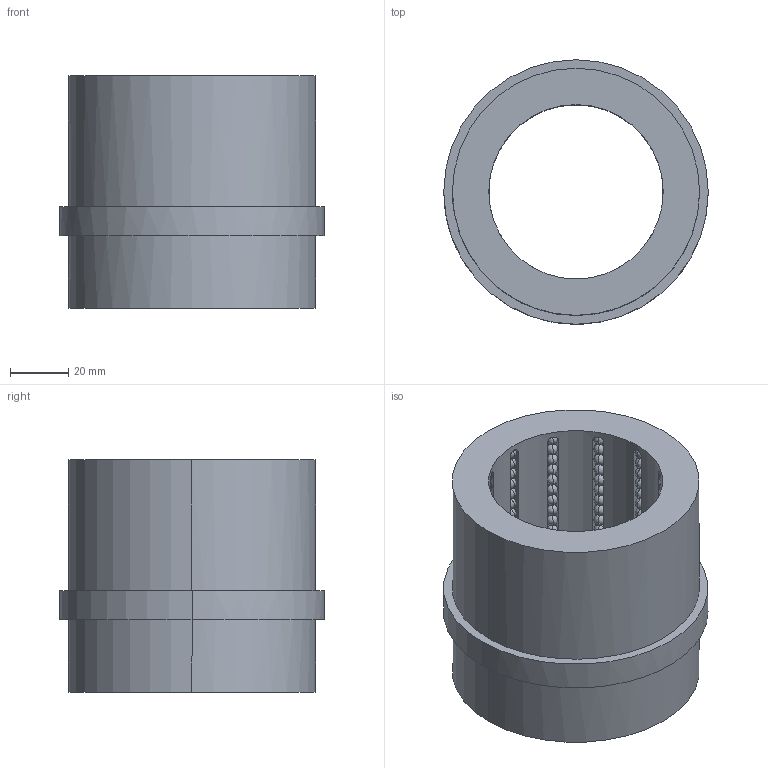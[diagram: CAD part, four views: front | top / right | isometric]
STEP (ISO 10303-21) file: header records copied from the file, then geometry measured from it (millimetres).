
FILE_DESCRIPTION(('CATIA V5 STEP Exchange'),'2;1');
FILE_NAME('C:\Users\Raffaele\Desktop\3D BOLEX\3D FILES CF BOLEX\2-BUSH REF 802\B8026055.stp','2019-06-19T13:52:08+00:00',('none'),('none'),'CATIA Version 5 Release 20 GA (IN-10)','CATIA V5 STEP AP203','none');
FILE_SCHEMA(('CONFIG_CONTROL_DESIGN'));
Length unit declared in the file: millimetre
Products named in the file (1): B8026055
Bounding box: 91 x 91 x 80 mm (x, y, z)
Volume: 229285.5 mm3; surface area: 62215.8 mm2
Topology: 217 solids, 217 shells, 936 faces, 2766 edges, 548 vertices
Faces by surface type: sphere 864, plane 40, cylinder 32
Entity records: 16888 total; most frequent: CARTESIAN_POINT 3123, DIRECTION 2874, ORIENTED_EDGE 2076, AXIS2_PLACEMENT_3D 1833, EDGE_CURVE 1038, EDGE_LOOP 950, ADVANCED_FACE 936, FACE_OUTER_BOUND 936
